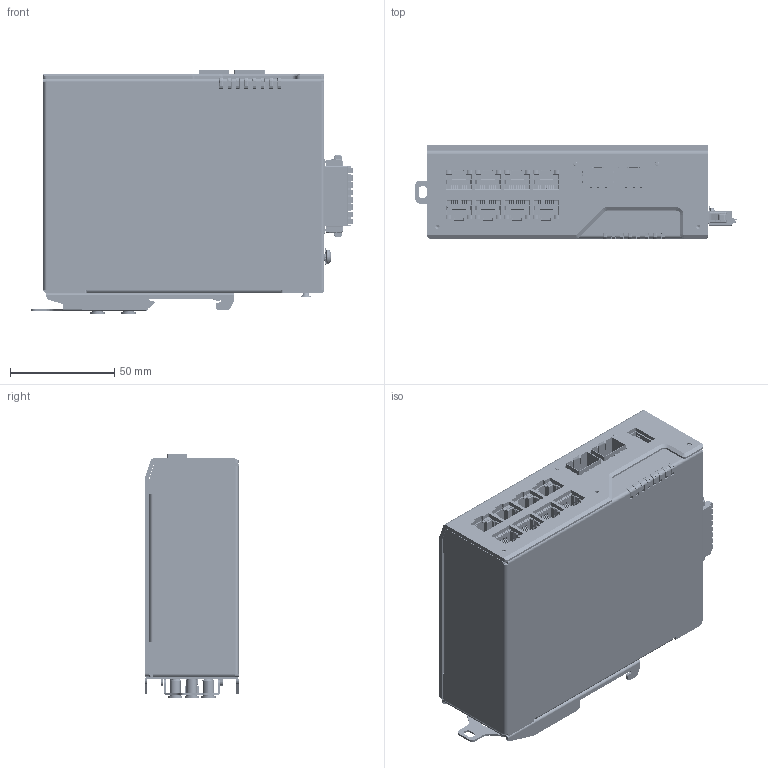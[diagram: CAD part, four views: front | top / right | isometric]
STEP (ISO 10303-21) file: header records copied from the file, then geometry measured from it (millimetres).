
FILE_DESCRIPTION((''),'2;1');
FILE_NAME('EDR-8010','2023-07-16T17:04:25',('KuanTK_Lu'),('PTC'),'CREO PARAMETRIC BY PTC INC, 2018020','CREO PARAMETRIC BY PTC INC, 2018020','');
FILE_SCHEMA(('AUTOMOTIVE_DESIGN { 1 0 10303 214 1 1 1 1 }'));
Products named in the file (1): EDR-8010
Bounding box: 154.33 x 45.2 x 117.2 mm (x, y, z)
Volume: 51955.7 mm3; surface area: 177602.1 mm2
Topology: 237 solids, 416 shells, 20602 faces, 55437 edges, 34947 vertices
Faces by surface type: plane 15966, cylinder 3544, bspline 448, torus 265, sphere 181, cone 175, extrusion 21, revolution 2
Entity records: 800476 total; most frequent: CARTESIAN_POINT 147640, ORIENTED_EDGE 109572, DIRECTION 97574, EDGE_CURVE 55135, VECTOR 44578, LINE 44557, VERTEX_POINT 34944, PRESENTATION_STYLE_ASSIGNMENT 30039
